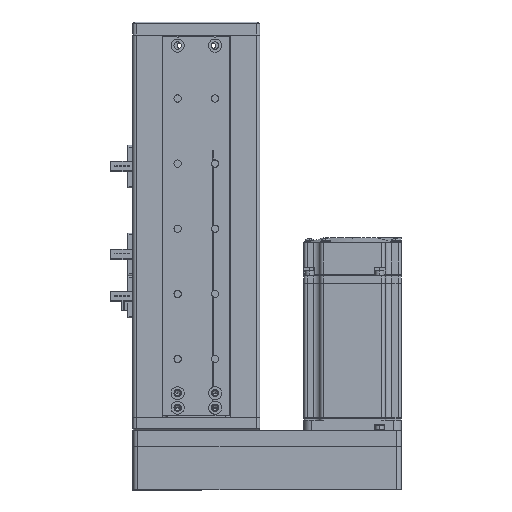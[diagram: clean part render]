
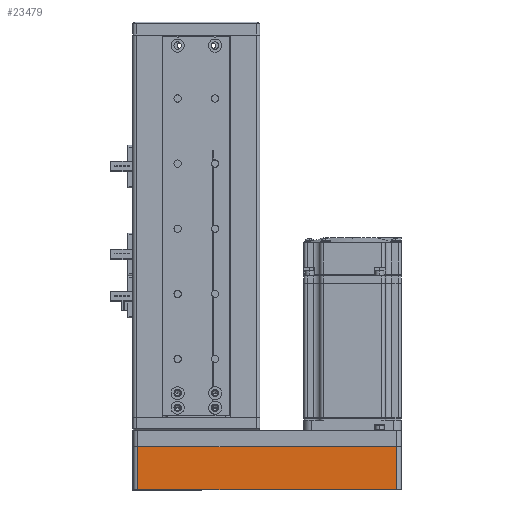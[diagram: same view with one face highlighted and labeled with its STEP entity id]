
A CAD part, front view. The second image highlights one B-rep face of the part: STEP entity #23479.
In plain terms, the highlighted planar face has unit normal (0, -1, 0) as drawn and (0, 1, 0) by its records, which use the part's own axes.
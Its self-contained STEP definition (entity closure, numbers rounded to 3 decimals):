
#1084 = CARTESIAN_POINT ( 'NONE',  ( -79.5, 30., 0. ) ) ;
#2895 = DIRECTION ( 'NONE',  ( -1., 0., 0. ) ) ;
#3359 = CARTESIAN_POINT ( 'NONE',  ( 82.5, 30., 26.5 ) ) ;
#5061 = DIRECTION ( 'NONE',  ( 0., 0., 1. ) ) ;
#5858 = ORIENTED_EDGE ( 'NONE', *, *, #11540, .T. ) ;
#8360 = DIRECTION ( 'NONE',  ( 0., -1., 0. ) ) ;
#8818 = VERTEX_POINT ( 'NONE', #17490 ) ;
#9149 = AXIS2_PLACEMENT_3D ( 'NONE', #40659, #8360, #33563 ) ;
#11412 = EDGE_CURVE ( 'NONE', #12654, #8818, #34932, .T. ) ;
#11540 = EDGE_CURVE ( 'NONE', #40312, #12654, #19663, .T. ) ;
#11601 = EDGE_CURVE ( 'NONE', #13497, #40312, #25881, .T. ) ;
#11661 = EDGE_CURVE ( 'NONE', #13497, #8818, #16281, .T. ) ;
#12654 = VERTEX_POINT ( 'NONE', #1084 ) ;
#13497 = VERTEX_POINT ( 'NONE', #25480 ) ;
#14378 = FACE_OUTER_BOUND ( 'NONE', #29785, .T. ) ;
#15745 = VECTOR ( 'NONE', #5061, 1000. ) ;
#16281 = LINE ( 'NONE', #3359, #42771 ) ;
#17301 = ORIENTED_EDGE ( 'NONE', *, *, #11661, .F. ) ;
#17463 = CARTESIAN_POINT ( 'NONE',  ( 79.5, 30., 26.5 ) ) ;
#17490 = CARTESIAN_POINT ( 'NONE',  ( -79.5, 30., 26.5 ) ) ;
#19663 = LINE ( 'NONE', #20762, #29252 ) ;
#20762 = CARTESIAN_POINT ( 'NONE',  ( 82.5, 30., 0. ) ) ;
#23479 = ADVANCED_FACE ( 'NONE', ( #14378 ), #29944, .F. ) ;
#25080 = CARTESIAN_POINT ( 'NONE',  ( 79.5, 30., 0. ) ) ;
#25480 = CARTESIAN_POINT ( 'NONE',  ( 79.5, 30., 26.5 ) ) ;
#25881 = LINE ( 'NONE', #17463, #43843 ) ;
#29252 = VECTOR ( 'NONE', #2895, 1000. ) ;
#29785 = EDGE_LOOP ( 'NONE', ( #17301, #31206, #5858, #38706 ) ) ;
#29944 = PLANE ( 'NONE',  #9149 ) ;
#30220 = CARTESIAN_POINT ( 'NONE',  ( -79.5, 30., 26.5 ) ) ;
#31206 = ORIENTED_EDGE ( 'NONE', *, *, #11601, .T. ) ;
#32125 = DIRECTION ( 'NONE',  ( -1., 0., 0. ) ) ;
#33563 = DIRECTION ( 'NONE',  ( 1., 0., 0. ) ) ;
#34932 = LINE ( 'NONE', #30220, #15745 ) ;
#38706 = ORIENTED_EDGE ( 'NONE', *, *, #11412, .T. ) ;
#38884 = DIRECTION ( 'NONE',  ( 0., 0., -1. ) ) ;
#40312 = VERTEX_POINT ( 'NONE', #25080 ) ;
#40659 = CARTESIAN_POINT ( 'NONE',  ( 82.5, 30., 26.5 ) ) ;
#42771 = VECTOR ( 'NONE', #32125, 1000. ) ;
#43843 = VECTOR ( 'NONE', #38884, 1000. ) ;
